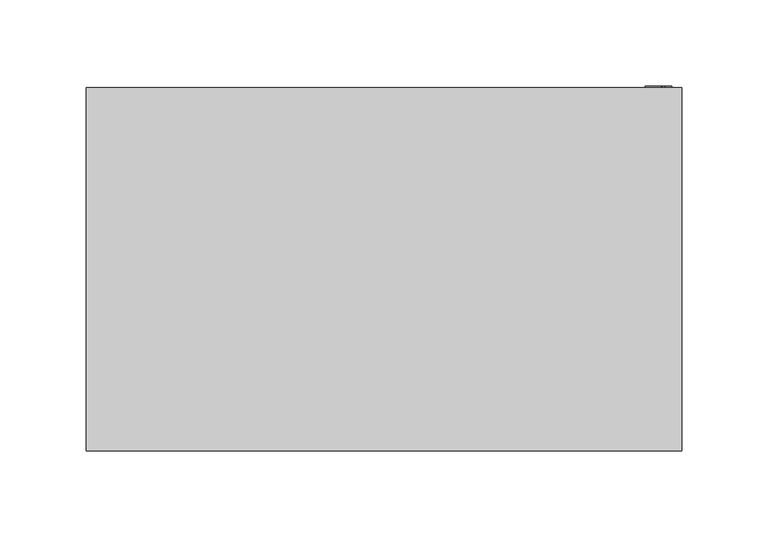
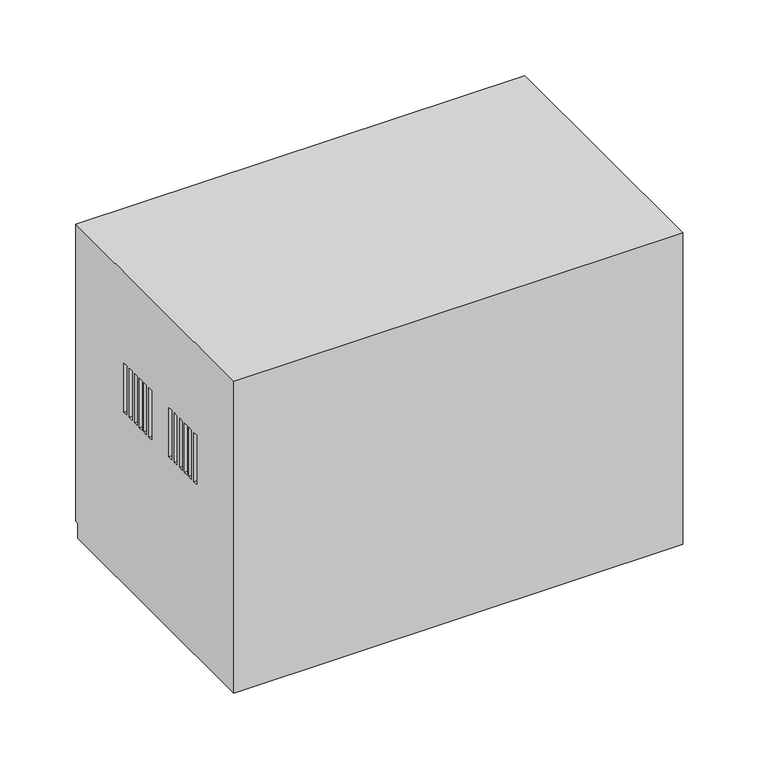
"""IFC4 building model written with IfcOpenShell, lengths in millimetres: proxy geometry, RBZ_БоксРезервногоЭлектропитания_Рубеж_БР_12В : БР12 исп.2х40."""

from ifc_helpers import new_model, si_unit, frame, origin, place, context, project, spatial, polyline, outline, extrude, faceted_brep, source, transform, mapped, element, save


def electrical_equipment_98b3b335(model_context):
    return source(origin(), model_context, "Body", "SolidModel", [
        extrude(outline(polyline([(246.4024937, 161.2214657), (246.4024937, 151.7070072), (241.7640105, 153.5810761), (241.7640105, 155.3951449), (236.8756485, 151.843542), (236.8756485, 154.4297746), (239.0484168, 155.8407869), (239.0484168, 167.133493), (249.2783823, 163.0003187), (247.1659844, 161.4655717), (241.0542443, 163.934875), (241.0542443, 157.4965613), (243.5281003, 159.1031022), (243.5281003, 155.0668762), (244.3778273, 154.7235642), (244.3778273, 159.7369821), (241.7640105, 160.7930326), (241.7640105, 163.0955345), (246.4024937, 161.2214657)])), frame((0.0, 211.0, 0.0), z_axis=(0.0, 1.0, 0.0), x_axis=(0.0, 0.0, 1.0)), (0.0, 0.0, 1.0), 1.0),
        faceted_brep([(-173.0, 0.0, 254.0), (173.0, 0.0, 254.0), (173.0, 211.0, 254.0), (-173.0, 211.0, 254.0), (173.0, 0.0, 0.0), (-173.0, 0.0, 0.0), (-173.0, 208.2133587, 0.0), (173.0, 208.2133587, 0.0), (173.0, 208.2133587, 12.2239997), (173.0, 211.0, 12.2239997), (173.0, 113.1513363, 180.03189), (173.0, 113.1513363, 140.03189), (173.0, 109.4013363, 140.03189), (173.0, 109.4013363, 180.03189), (173.0, 120.2686539, 180.03189), (173.0, 120.2686539, 140.03189), (173.0, 116.5186539, 140.03189), (173.0, 116.5186539, 180.03189), (173.0, 125.8936539, 180.03189), (173.0, 125.8936539, 140.03189), (173.0, 122.1436539, 140.03189), (173.0, 122.1436539, 180.03189), (173.0, 132.3859715, 180.03189), (173.0, 132.3859715, 140.03189), (173.0, 128.6359715, 140.03189), (173.0, 128.6359715, 180.03189), (173.0, 139.5032891, 180.03189), (173.0, 139.5032891, 140.03189), (173.0, 135.7532891, 140.03189), (173.0, 135.7532891, 180.03189), (173.0, 146.6206067, 180.03189), (173.0, 146.6206067, 140.03189), (173.0, 142.8706067, 140.03189), (173.0, 142.8706067, 180.03189), (173.0, 53.1513363, 180.03189), (173.0, 53.1513363, 140.03189), (173.0, 49.4013363, 140.03189), (173.0, 49.4013363, 180.03189), (173.0, 60.2686539, 180.03189), (173.0, 60.2686539, 140.03189), (173.0, 56.5186539, 140.03189), (173.0, 56.5186539, 180.03189), (173.0, 65.8936539, 180.03189), (173.0, 65.8936539, 140.03189), (173.0, 62.1436539, 140.03189), (173.0, 62.1436539, 180.03189), (173.0, 72.3859715, 180.03189), (173.0, 72.3859715, 140.03189), (173.0, 68.6359715, 140.03189), (173.0, 68.6359715, 180.03189), (173.0, 79.5032891, 180.03189), (173.0, 79.5032891, 140.03189), (173.0, 75.7532891, 140.03189), (173.0, 75.7532891, 180.03189), (173.0, 86.6206067, 180.03189), (173.0, 86.6206067, 140.03189), (173.0, 82.8706067, 140.03189), (173.0, 82.8706067, 180.03189), (-173.0, 211.0, 12.2239997), (128.9706538, 211.0, 245.7640105), (124.2324324, 211.0, 245.7640105), (124.2324324, 211.0, 240.7640105), (128.9706538, 211.0, 240.7640105), (121.9633548, 211.0, 245.7640105), (117.2251333, 211.0, 245.7640105), (117.2251333, 211.0, 240.7640105), (121.9633548, 211.0, 240.7640105), (114.9560557, 211.0, 245.7640105), (110.2178343, 211.0, 245.7640105), (110.2178343, 211.0, 240.7640105), (114.9560557, 211.0, 240.7640105), (-173.0, 208.2133587, 12.2239997), (-173.0, 53.1513363, 140.03189), (-173.0, 53.1513363, 180.03189), (-173.0, 49.4013363, 180.03189), (-173.0, 49.4013363, 140.03189), (-173.0, 60.2686539, 140.03189), (-173.0, 60.2686539, 180.03189), (-173.0, 56.5186539, 180.03189), (-173.0, 56.5186539, 140.03189), (-173.0, 65.8936539, 140.03189), (-173.0, 65.8936539, 180.03189), (-173.0, 62.1436539, 180.03189), (-173.0, 62.1436539, 140.03189), (-173.0, 72.3859715, 140.03189), (-173.0, 72.3859715, 180.03189), (-173.0, 68.6359715, 180.03189), (-173.0, 68.6359715, 140.03189), (-173.0, 79.5032891, 140.03189), (-173.0, 79.5032891, 180.03189), (-173.0, 75.7532891, 180.03189), (-173.0, 75.7532891, 140.03189), (-173.0, 86.6206067, 140.03189), (-173.0, 86.6206067, 180.03189), (-173.0, 82.8706067, 180.03189), (-173.0, 82.8706067, 140.03189), (-173.0, 113.1513363, 140.03189), (-173.0, 113.1513363, 180.03189), (-173.0, 109.4013363, 180.03189), (-173.0, 109.4013363, 140.03189), (-173.0, 120.2686539, 140.03189), (-173.0, 120.2686539, 180.03189), (-173.0, 116.5186539, 180.03189), (-173.0, 116.5186539, 140.03189), (-173.0, 125.8936539, 140.03189), (-173.0, 125.8936539, 180.03189), (-173.0, 122.1436539, 180.03189), (-173.0, 122.1436539, 140.03189), (-173.0, 132.3859715, 140.03189), (-173.0, 132.3859715, 180.03189), (-173.0, 128.6359715, 180.03189), (-173.0, 128.6359715, 140.03189), (-173.0, 139.5032891, 140.03189), (-173.0, 139.5032891, 180.03189), (-173.0, 135.7532891, 180.03189), (-173.0, 135.7532891, 140.03189), (-173.0, 146.6206067, 140.03189), (-173.0, 146.6206067, 180.03189), (-173.0, 142.8706067, 180.03189), (-173.0, 142.8706067, 140.03189), (-148.907021, 53.1513363, 180.03189), (-148.907021, 53.1513363, 140.03189), (-148.907021, 49.4013363, 140.03189), (-148.907021, 49.4013363, 180.03189), (-148.907021, 60.2686539, 180.03189), (-148.907021, 60.2686539, 140.03189), (-148.907021, 56.5186539, 140.03189), (-148.907021, 56.5186539, 180.03189), (-148.907021, 65.8936539, 180.03189), (-148.907021, 65.8936539, 140.03189), (-148.907021, 62.1436539, 140.03189), (-148.907021, 62.1436539, 180.03189), (-148.907021, 72.3859715, 180.03189), (-148.907021, 72.3859715, 140.03189), (-148.907021, 68.6359715, 140.03189), (-148.907021, 68.6359715, 180.03189), (-148.907021, 79.5032891, 180.03189), (-148.907021, 79.5032891, 140.03189), (-148.907021, 75.7532891, 140.03189), (-148.907021, 75.7532891, 180.03189), (-148.907021, 86.6206067, 180.03189), (-148.907021, 86.6206067, 140.03189), (-148.907021, 82.8706067, 140.03189), (-148.907021, 82.8706067, 180.03189), (148.907021, 113.1513363, 180.03189), (148.907021, 109.4013363, 180.03189), (148.907021, 109.4013363, 140.03189), (148.907021, 113.1513363, 140.03189), (148.907021, 120.2686539, 180.03189), (148.907021, 116.5186539, 180.03189), (148.907021, 116.5186539, 140.03189), (148.907021, 120.2686539, 140.03189), (148.907021, 125.8936539, 180.03189), (148.907021, 122.1436539, 180.03189), (148.907021, 122.1436539, 140.03189), (148.907021, 125.8936539, 140.03189), (148.907021, 132.3859715, 180.03189), (148.907021, 128.6359715, 180.03189), (148.907021, 128.6359715, 140.03189), (148.907021, 132.3859715, 140.03189), (148.907021, 139.5032891, 180.03189), (148.907021, 135.7532891, 180.03189), (148.907021, 135.7532891, 140.03189), (148.907021, 139.5032891, 140.03189), (148.907021, 146.6206067, 180.03189), (148.907021, 142.8706067, 180.03189), (148.907021, 142.8706067, 140.03189), (148.907021, 146.6206067, 140.03189), (148.907021, 53.1513363, 180.03189), (148.907021, 49.4013363, 180.03189), (148.907021, 49.4013363, 140.03189), (148.907021, 53.1513363, 140.03189), (148.907021, 60.2686539, 180.03189), (148.907021, 56.5186539, 180.03189), (148.907021, 56.5186539, 140.03189), (148.907021, 60.2686539, 140.03189), (148.907021, 65.8936539, 180.03189), (148.907021, 62.1436539, 180.03189), (148.907021, 62.1436539, 140.03189), (148.907021, 65.8936539, 140.03189), (148.907021, 72.3859715, 180.03189), (148.907021, 68.6359715, 180.03189), (148.907021, 68.6359715, 140.03189), (148.907021, 72.3859715, 140.03189), (148.907021, 79.5032891, 180.03189), (148.907021, 75.7532891, 180.03189), (148.907021, 75.7532891, 140.03189), (148.907021, 79.5032891, 140.03189), (148.907021, 86.6206067, 180.03189), (148.907021, 82.8706067, 180.03189), (148.907021, 82.8706067, 140.03189), (148.907021, 86.6206067, 140.03189), (-148.907021, 113.1513363, 180.03189), (-148.907021, 113.1513363, 140.03189), (-148.907021, 109.4013363, 140.03189), (-148.907021, 109.4013363, 180.03189), (-148.907021, 120.2686539, 180.03189), (-148.907021, 120.2686539, 140.03189), (-148.907021, 116.5186539, 140.03189), (-148.907021, 116.5186539, 180.03189), (-148.907021, 125.8936539, 180.03189), (-148.907021, 125.8936539, 140.03189), (-148.907021, 122.1436539, 140.03189), (-148.907021, 122.1436539, 180.03189), (-148.907021, 132.3859715, 180.03189), (-148.907021, 132.3859715, 140.03189), (-148.907021, 128.6359715, 140.03189), (-148.907021, 128.6359715, 180.03189), (-148.907021, 139.5032891, 180.03189), (-148.907021, 139.5032891, 140.03189), (-148.907021, 135.7532891, 140.03189), (-148.907021, 135.7532891, 180.03189), (-148.907021, 146.6206067, 180.03189), (-148.907021, 146.6206067, 140.03189), (-148.907021, 142.8706067, 140.03189), (-148.907021, 142.8706067, 180.03189), (124.2324324, 208.2133587, 245.7640105), (128.9706538, 208.2133587, 245.7640105), (128.9706538, 208.2133587, 240.7640105), (124.2324324, 208.2133587, 240.7640105), (117.2251333, 208.2133587, 245.7640105), (121.9633548, 208.2133587, 245.7640105), (121.9633548, 208.2133587, 240.7640105), (117.2251333, 208.2133587, 240.7640105), (110.2178343, 208.2133587, 245.7640105), (114.9560557, 208.2133587, 245.7640105), (114.9560557, 208.2133587, 240.7640105), (110.2178343, 208.2133587, 240.7640105)], [[[0, 1, 2, 3]], [[4, 5, 6, 7]], [[1, 0, 5, 4]], [[2, 1, 4, 7, 8, 9], [10, 11, 12, 13], [14, 15, 16, 17], [18, 19, 20, 21], [22, 23, 24, 25], [26, 27, 28, 29], [30, 31, 32, 33], [34, 35, 36, 37], [38, 39, 40, 41], [42, 43, 44, 45], [46, 47, 48, 49], [50, 51, 52, 53], [54, 55, 56, 57]], [[3, 2, 9, 58], [59, 60, 61, 62], [63, 64, 65, 66], [67, 68, 69, 70]], [[0, 3, 58, 71, 6, 5], [72, 73, 74, 75], [76, 77, 78, 79], [80, 81, 82, 83], [84, 85, 86, 87], [88, 89, 90, 91], [92, 93, 94, 95], [96, 97, 98, 99], [100, 101, 102, 103], [104, 105, 106, 107], [108, 109, 110, 111], [112, 113, 114, 115], [116, 117, 118, 119]], [[120, 121, 122, 123]], [[124, 125, 126, 127]], [[128, 129, 130, 131]], [[132, 133, 134, 135]], [[136, 137, 138, 139]], [[140, 141, 142, 143]], [[121, 120, 73, 72]], [[122, 121, 72, 75]], [[123, 122, 75, 74]], [[120, 123, 74, 73]], [[125, 124, 77, 76]], [[126, 125, 76, 79]], [[127, 126, 79, 78]], [[124, 127, 78, 77]], [[129, 128, 81, 80]], [[130, 129, 80, 83]], [[131, 130, 83, 82]], [[128, 131, 82, 81]], [[133, 132, 85, 84]], [[134, 133, 84, 87]], [[135, 134, 87, 86]], [[132, 135, 86, 85]], [[137, 136, 89, 88]], [[138, 137, 88, 91]], [[139, 138, 91, 90]], [[136, 139, 90, 89]], [[141, 140, 93, 92]], [[142, 141, 92, 95]], [[143, 142, 95, 94]], [[140, 143, 94, 93]], [[144, 145, 146, 147]], [[148, 149, 150, 151]], [[152, 153, 154, 155]], [[156, 157, 158, 159]], [[160, 161, 162, 163]], [[164, 165, 166, 167]], [[144, 147, 11, 10]], [[147, 146, 12, 11]], [[146, 145, 13, 12]], [[145, 144, 10, 13]], [[148, 151, 15, 14]], [[151, 150, 16, 15]], [[150, 149, 17, 16]], [[149, 148, 14, 17]], [[152, 155, 19, 18]], [[155, 154, 20, 19]], [[154, 153, 21, 20]], [[153, 152, 18, 21]], [[156, 159, 23, 22]], [[159, 158, 24, 23]], [[158, 157, 25, 24]], [[157, 156, 22, 25]], [[160, 163, 27, 26]], [[163, 162, 28, 27]], [[162, 161, 29, 28]], [[161, 160, 26, 29]], [[164, 167, 31, 30]], [[167, 166, 32, 31]], [[166, 165, 33, 32]], [[165, 164, 30, 33]], [[168, 169, 170, 171]], [[172, 173, 174, 175]], [[176, 177, 178, 179]], [[180, 181, 182, 183]], [[184, 185, 186, 187]], [[188, 189, 190, 191]], [[168, 171, 35, 34]], [[171, 170, 36, 35]], [[170, 169, 37, 36]], [[169, 168, 34, 37]], [[172, 175, 39, 38]], [[175, 174, 40, 39]], [[174, 173, 41, 40]], [[173, 172, 38, 41]], [[176, 179, 43, 42]], [[179, 178, 44, 43]], [[178, 177, 45, 44]], [[177, 176, 42, 45]], [[180, 183, 47, 46]], [[183, 182, 48, 47]], [[182, 181, 49, 48]], [[181, 180, 46, 49]], [[184, 187, 51, 50]], [[187, 186, 52, 51]], [[186, 185, 53, 52]], [[185, 184, 50, 53]], [[188, 191, 55, 54]], [[191, 190, 56, 55]], [[190, 189, 57, 56]], [[189, 188, 54, 57]], [[192, 193, 194, 195]], [[196, 197, 198, 199]], [[200, 201, 202, 203]], [[204, 205, 206, 207]], [[208, 209, 210, 211]], [[212, 213, 214, 215]], [[193, 192, 97, 96]], [[194, 193, 96, 99]], [[195, 194, 99, 98]], [[192, 195, 98, 97]], [[197, 196, 101, 100]], [[198, 197, 100, 103]], [[199, 198, 103, 102]], [[196, 199, 102, 101]], [[201, 200, 105, 104]], [[202, 201, 104, 107]], [[203, 202, 107, 106]], [[200, 203, 106, 105]], [[205, 204, 109, 108]], [[206, 205, 108, 111]], [[207, 206, 111, 110]], [[204, 207, 110, 109]], [[209, 208, 113, 112]], [[210, 209, 112, 115]], [[211, 210, 115, 114]], [[208, 211, 114, 113]], [[213, 212, 117, 116]], [[214, 213, 116, 119]], [[215, 214, 119, 118]], [[212, 215, 118, 117]], [[71, 8, 7, 6]], [[8, 71, 58, 9]], [[216, 217, 218, 219]], [[220, 221, 222, 223]], [[224, 225, 226, 227]], [[217, 216, 60, 59]], [[218, 217, 59, 62]], [[219, 218, 62, 61]], [[216, 219, 61, 60]], [[221, 220, 64, 63]], [[222, 221, 63, 66]], [[223, 222, 66, 65]], [[220, 223, 65, 64]], [[225, 224, 68, 67]], [[226, 225, 67, 70]], [[227, 226, 70, 69]], [[224, 227, 69, 68]]]),
    ])


if __name__ == "__main__":
    model = new_model("IFC4")
    model_context = context("Model", 3, world=origin())
    ifc_project = project(units=[si_unit("LENGTHUNIT", "METRE", prefix="MILLI")], contexts=[model_context])
    site = spatial("IfcSite", under=ifc_project)
    building = spatial("IfcBuilding", under=site)
    placement = place(None, origin())
    electrical_equipment_shape = electrical_equipment_98b3b335(model_context)
    element("IfcBuildingElementProxy", 1, Name="RBZ_БоксРезервногоЭлектропитания_Рубеж_БР_12В : БР12 исп.2х40", ObjectType="RBZ_БоксРезервногоЭлектропитания_Рубеж_БР_12В : БР12 исп.2х40", at=placement, inside=building, context=model_context, shape_type="MappedRepresentation", body=[
        mapped(electrical_equipment_shape, transform((0.0, 0.0, 0.0), x_axis=(1.0, 0.0, 0.0), y_axis=(0.0, 1.0, 0.0), z_axis=(0.0, 0.0, 1.0))),
    ])
    save(model, "model.ifc")
